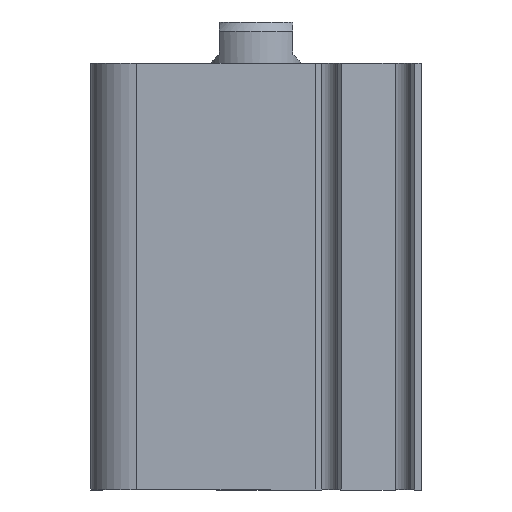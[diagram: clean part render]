
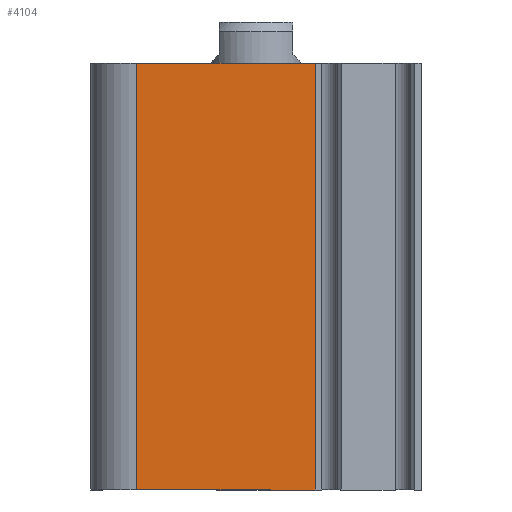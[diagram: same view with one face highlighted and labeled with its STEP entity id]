
A CAD part, front view. The second image highlights one B-rep face of the part: STEP entity #4104.
In plain terms, the highlighted planar face has unit normal (0, -1, 0).
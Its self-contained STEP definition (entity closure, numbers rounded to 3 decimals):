
#120 = EDGE_LOOP ( 'NONE', ( #1874, #4953, #3354, #2065 ) ) ;
#139 = CARTESIAN_POINT ( 'NONE',  ( -13., -18., 74.162 ) ) ;
#167 = VECTOR ( 'NONE', #4144, 1000. ) ;
#362 = CARTESIAN_POINT ( 'NONE',  ( -13., -18., -23.25 ) ) ;
#619 = CARTESIAN_POINT ( 'NONE',  ( 6.466, -18., -23.25 ) ) ;
#668 = EDGE_CURVE ( 'NONE', #1201, #3949, #891, .T. ) ;
#891 = LINE ( 'NONE', #3267, #4538 ) ;
#1201 = VERTEX_POINT ( 'NONE', #3232 ) ;
#1418 = AXIS2_PLACEMENT_3D ( 'NONE', #3093, #2284, #4664 ) ;
#1466 = LINE ( 'NONE', #362, #1577 ) ;
#1577 = VECTOR ( 'NONE', #3887, 1000. ) ;
#1802 = VERTEX_POINT ( 'NONE', #2903 ) ;
#1874 = ORIENTED_EDGE ( 'NONE', *, *, #3892, .F. ) ;
#1889 = FACE_OUTER_BOUND ( 'NONE', #120, .T. ) ;
#2065 = ORIENTED_EDGE ( 'NONE', *, *, #3239, .T. ) ;
#2138 = CARTESIAN_POINT ( 'NONE',  ( 6.466, -18., 74.162 ) ) ;
#2284 = DIRECTION ( 'NONE',  ( 0., 1., 0. ) ) ;
#2485 = DIRECTION ( 'NONE',  ( 1., 0., 0. ) ) ;
#2903 = CARTESIAN_POINT ( 'NONE',  ( -13., -18., -23.25 ) ) ;
#3028 = VERTEX_POINT ( 'NONE', #619 ) ;
#3067 = PLANE ( 'NONE',  #1418 ) ;
#3093 = CARTESIAN_POINT ( 'NONE',  ( -13., -18., 74.162 ) ) ;
#3232 = CARTESIAN_POINT ( 'NONE',  ( -13., -18., 23.25 ) ) ;
#3239 = EDGE_CURVE ( 'NONE', #1201, #1802, #4889, .T. ) ;
#3267 = CARTESIAN_POINT ( 'NONE',  ( -13., -18., 23.25 ) ) ;
#3354 = ORIENTED_EDGE ( 'NONE', *, *, #668, .F. ) ;
#3515 = EDGE_CURVE ( 'NONE', #3028, #3949, #4911, .T. ) ;
#3645 = CARTESIAN_POINT ( 'NONE',  ( 6.466, -18., 23.25 ) ) ;
#3839 = VECTOR ( 'NONE', #4488, 1000. ) ;
#3887 = DIRECTION ( 'NONE',  ( -1., 0., 0. ) ) ;
#3892 = EDGE_CURVE ( 'NONE', #3028, #1802, #1466, .T. ) ;
#3949 = VERTEX_POINT ( 'NONE', #3645 ) ;
#4104 = ADVANCED_FACE ( 'NONE', ( #1889 ), #3067, .F. ) ;
#4144 = DIRECTION ( 'NONE',  ( 0., 0., 1. ) ) ;
#4488 = DIRECTION ( 'NONE',  ( 0., 0., -1. ) ) ;
#4538 = VECTOR ( 'NONE', #2485, 1000. ) ;
#4664 = DIRECTION ( 'NONE',  ( 0., 0., 1. ) ) ;
#4889 = LINE ( 'NONE', #139, #3839 ) ;
#4911 = LINE ( 'NONE', #2138, #167 ) ;
#4953 = ORIENTED_EDGE ( 'NONE', *, *, #3515, .T. ) ;
